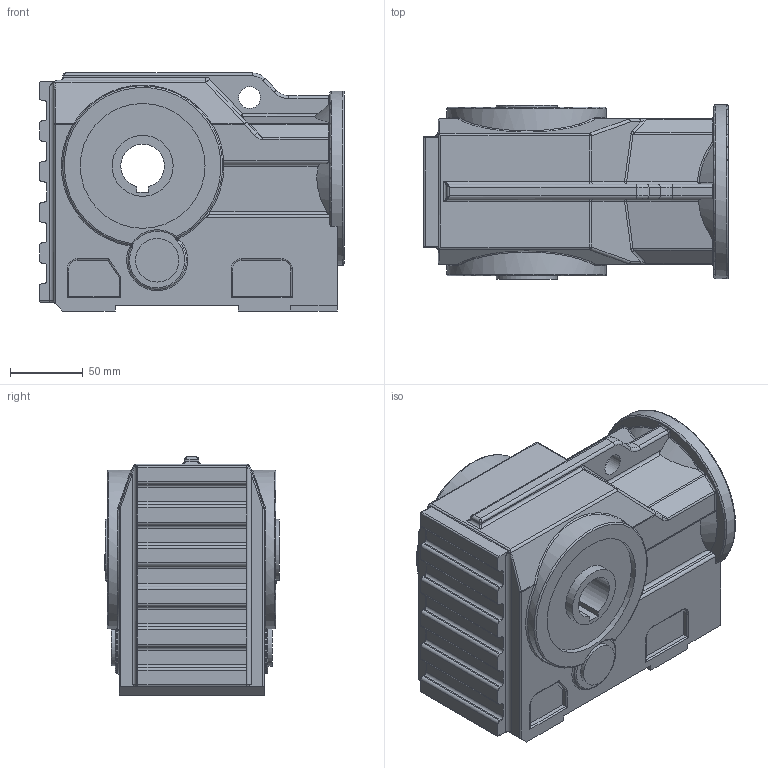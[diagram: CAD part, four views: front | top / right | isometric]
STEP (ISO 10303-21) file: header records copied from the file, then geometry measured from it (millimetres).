
FILE_DESCRIPTION((''),'2;1');
FILE_NAME('F:\PAWEŁ\ZLECENIA\2011 DualSystem\Przekładnie DK\001 Modele\DKAB30_\DK_30_STEP\DK_A_30.stp','2012-06-25T20:00:30',('admin'),(''),'Autodesk Inventor 2009','Autodesk Inventor 2009','');
FILE_SCHEMA(('AUTOMOTIVE_DESIGN { 1 0 10303 214 1 1 1 1 }'));
Length unit declared in the file: millimetre
Products named in the file (1): DK_A_30
Bounding box: 210 x 120.5 x 164 mm (x, y, z)
Volume: 2953593.9 mm3; surface area: 166418.2 mm2
Topology: 1 solids, 1 shells, 409 faces, 976 edges, 565 vertices
Faces by surface type: cylinder 165, plane 96, bspline 91, torus 43, sphere 10, cone 4
Full cylindrical faces by diameter (mm): 8.376 x4, 15 x1, 30 x1, 42 x1, 80 x1, 86 x1, 120 x1
Entity records: 14839 total; most frequent: CARTESIAN_POINT 5655, DIRECTION 1941, ORIENTED_EDGE 1882, EDGE_CURVE 941, AXIS2_PLACEMENT_3D 759, VERTEX_POINT 564, EDGE_LOOP 443, VECTOR 423
